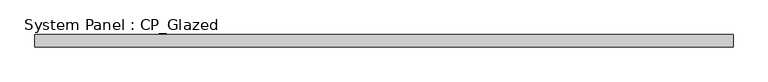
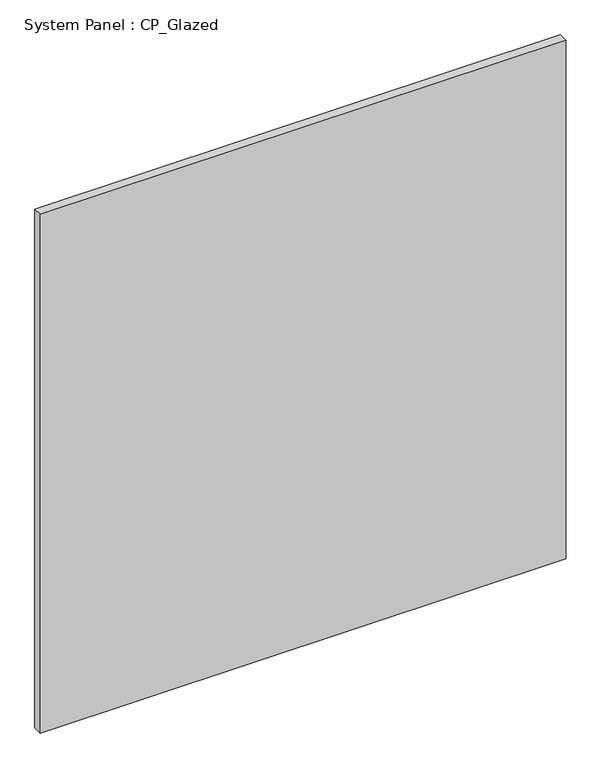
"""IFC4 building model written with IfcOpenShell, lengths in millimetres: plate geometry, System Panel : CP_Glazed."""

from ifc_helpers import new_model, si_unit, origin, origin_with_axes, place, context, project, spatial, polyline, outline, extrude, source, transform, mapped, element, save


def system_panel_cp_glazed_d4566b46(model_context):
    return source(origin(), model_context, "Body", "SweptSolid", [
        extrude(outline(polyline([(709.6125, 19.05), (-709.6125, 19.05), (-709.6125, 44.45), (709.6125, 44.45), (709.6125, 19.05)])), origin_with_axes(), (0.0, 0.0, 1.0), 1479.55),
    ])


if __name__ == "__main__":
    model = new_model("IFC4")
    model_context = context("Model", 3, world=origin())
    ifc_project = project(units=[si_unit("LENGTHUNIT", "METRE", prefix="MILLI")], contexts=[model_context])
    site = spatial("IfcSite", under=ifc_project)
    building = spatial("IfcBuilding", under=site)
    placement = place(None, origin())
    system_panel_cp_glazed_shape = system_panel_cp_glazed_d4566b46(model_context)
    element("IfcPlate", 1, ObjectType="System Panel : CP_Glazed", at=placement, inside=building, context=model_context, shape_type="MappedRepresentation", body=[
        mapped(system_panel_cp_glazed_shape, transform((0.0, 0.0, 0.0), x_axis=(1.0, 0.0, 0.0), y_axis=(0.0, 1.0, 0.0), z_axis=(0.0, 0.0, 1.0))),
    ])
    save(model, "model.ifc")
